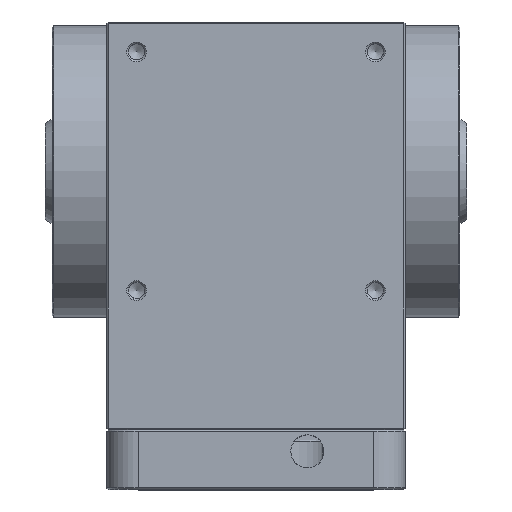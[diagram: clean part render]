
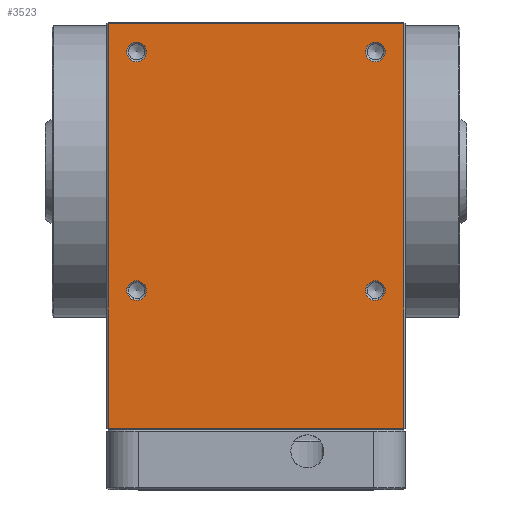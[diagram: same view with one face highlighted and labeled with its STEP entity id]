
A CAD part, top view. The second image highlights one B-rep face of the part: STEP entity #3523.
In plain terms, the highlighted planar face has unit normal (0, 0, 1).
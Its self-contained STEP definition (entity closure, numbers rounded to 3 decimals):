
#2861=CARTESIAN_POINT('',(44.5,-77.5,45.0));
#2862=VERTEX_POINT('',#2861);
#2917=CARTESIAN_POINT('',(44.5,44.5,45.0));
#2918=VERTEX_POINT('',#2917);
#2969=CARTESIAN_POINT('',(-44.5,-77.5,45.0));
#2970=VERTEX_POINT('',#2969);
#3001=CARTESIAN_POINT('',(-44.5,44.5,45.0));
#3002=VERTEX_POINT('',#3001);
#3054=CARTESIAN_POINT('',(-44.5,-77.5,45.0));
#3055=DIRECTION('',(0.0,1.0,0.0));
#3056=VECTOR('',#3055,122.0);
#3057=LINE('',#3054,#3056);
#3058=EDGE_CURVE('',#2970,#3002,#3057,.T.);
#3076=CARTESIAN_POINT('',(-44.5,44.5,45.0));
#3077=DIRECTION('',(1.0,0.0,0.0));
#3078=VECTOR('',#3077,89.);
#3079=LINE('',#3076,#3078);
#3080=EDGE_CURVE('',#3002,#2918,#3079,.T.);
#3121=CARTESIAN_POINT('',(44.5,-77.5,45.0));
#3122=DIRECTION('',(-1.0,0.0,0.0));
#3123=VECTOR('',#3122,89.);
#3124=LINE('',#3121,#3123);
#3125=EDGE_CURVE('',#2862,#2970,#3124,.T.);
#3143=CARTESIAN_POINT('',(44.5,44.5,45.0));
#3144=DIRECTION('',(0.0,-1.0,0.0));
#3145=VECTOR('',#3144,122.0);
#3146=LINE('',#3143,#3145);
#3147=EDGE_CURVE('',#2918,#2862,#3146,.T.);
#3468=CARTESIAN_POINT('',(0.,0.,45.0));
#3469=DIRECTION('',(0.0,0.0,1.0));
#3470=DIRECTION('',(1.0,0.0,0.0));
#3471=AXIS2_PLACEMENT_3D('',#3468,#3469,#3470);
#3472=PLANE('',#3471);
#3473=ORIENTED_EDGE('',*,*,#3058,.F.);
#3474=ORIENTED_EDGE('',*,*,#3125,.F.);
#3475=ORIENTED_EDGE('',*,*,#3147,.F.);
#3476=ORIENTED_EDGE('',*,*,#3080,.F.);
#3477=EDGE_LOOP('',(#3473,#3474,#3475,#3476));
#3478=FACE_OUTER_BOUND('',#3477,.T.);
#3479=CARTESIAN_POINT('',(33.042,-36.0,45.0));
#3480=VERTEX_POINT('',#3479);
#3481=CARTESIAN_POINT('',(36.,-36.0,45.0));
#3482=DIRECTION('',(0.0,0.0,1.0));
#3483=DIRECTION('',(1.0,0.0,0.0));
#3484=AXIS2_PLACEMENT_3D('',#3481,#3482,#3483);
#3485=CIRCLE('',#3484,2.958);
#3486=EDGE_CURVE('',#3480,#3480,#3485,.T.);
#3487=ORIENTED_EDGE('',*,*,#3486,.F.);
#3488=EDGE_LOOP('',(#3487));
#3489=FACE_BOUND('',#3488,.T.);
#3490=CARTESIAN_POINT('',(-33.042,-36.,45.0));
#3491=VERTEX_POINT('',#3490);
#3492=CARTESIAN_POINT('',(-36.,-36.,45.0));
#3493=DIRECTION('',(0.0,0.0,1.0));
#3494=DIRECTION('',(-1.0,0.0,0.0));
#3495=AXIS2_PLACEMENT_3D('',#3492,#3493,#3494);
#3496=CIRCLE('',#3495,2.958);
#3497=EDGE_CURVE('',#3491,#3491,#3496,.T.);
#3498=ORIENTED_EDGE('',*,*,#3497,.F.);
#3499=EDGE_LOOP('',(#3498));
#3500=FACE_BOUND('',#3499,.T.);
#3501=CARTESIAN_POINT('',(-33.042,36.,45.0));
#3502=VERTEX_POINT('',#3501);
#3503=CARTESIAN_POINT('',(-36.,36.,45.0));
#3504=DIRECTION('',(0.0,0.0,1.0));
#3505=DIRECTION('',(-1.0,0.0,0.0));
#3506=AXIS2_PLACEMENT_3D('',#3503,#3504,#3505);
#3507=CIRCLE('',#3506,2.958);
#3508=EDGE_CURVE('',#3502,#3502,#3507,.T.);
#3509=ORIENTED_EDGE('',*,*,#3508,.F.);
#3510=EDGE_LOOP('',(#3509));
#3511=FACE_BOUND('',#3510,.T.);
#3512=CARTESIAN_POINT('',(33.042,36.0,45.0));
#3513=VERTEX_POINT('',#3512);
#3514=CARTESIAN_POINT('',(36.,36.0,45.0));
#3515=DIRECTION('',(0.0,0.0,1.0));
#3516=DIRECTION('',(1.0,0.0,0.0));
#3517=AXIS2_PLACEMENT_3D('',#3514,#3515,#3516);
#3518=CIRCLE('',#3517,2.958);
#3519=EDGE_CURVE('',#3513,#3513,#3518,.T.);
#3520=ORIENTED_EDGE('',*,*,#3519,.F.);
#3521=EDGE_LOOP('',(#3520));
#3522=FACE_BOUND('',#3521,.T.);
#3523=ADVANCED_FACE('',(#3478,#3489,#3500,#3511,#3522),#3472,.T.);
